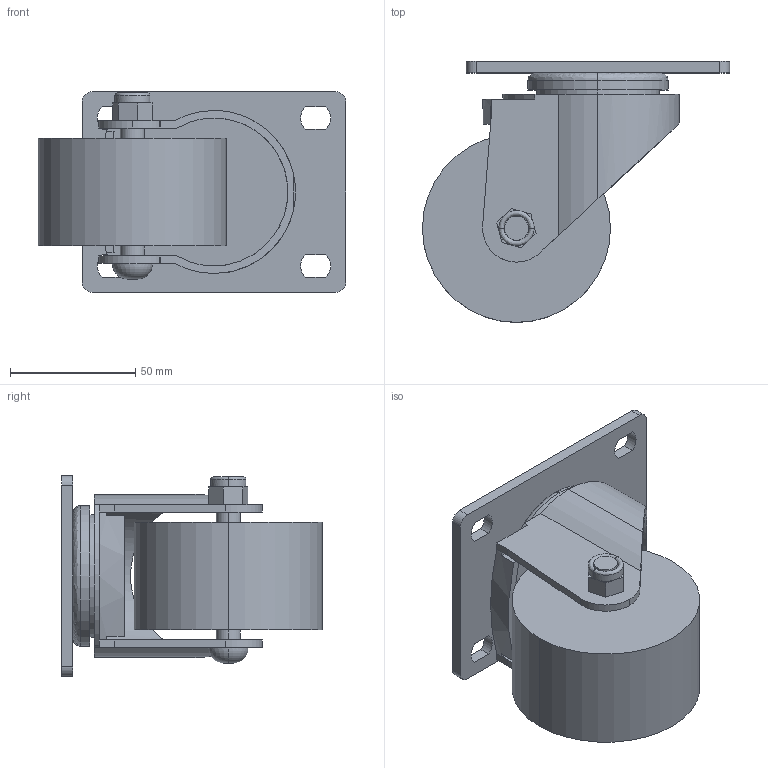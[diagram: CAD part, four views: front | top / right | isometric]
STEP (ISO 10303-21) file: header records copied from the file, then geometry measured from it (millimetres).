
FILE_DESCRIPTION (( 'STEP AP203' ), '1' );
FILE_NAME ('FN-A3201.STEP', '2015-11-18T07:26:11', ( '' ), ( '' ), 'SwSTEP 2.0', 'SolidWorks 2014', '' );
FILE_SCHEMA (( 'CONFIG_CONTROL_DESIGN' ));
Length unit declared in the file: millimetre
Products named in the file (1): FN-A3201
Bounding box: 122.5 x 104 x 80 mm (x, y, z)
Volume: 288744.8 mm3; surface area: 61911.8 mm2
Topology: 1 solids, 1 shells, 108 faces, 276 edges, 181 vertices
Faces by surface type: plane 52, cylinder 48, bspline 6, torus 2
Entity records: 3849 total; most frequent: CARTESIAN_POINT 1131, DIRECTION 555, ORIENTED_EDGE 552, EDGE_CURVE 276, AXIS2_PLACEMENT_3D 203, VERTEX_POINT 181, LINE 149, VECTOR 149
